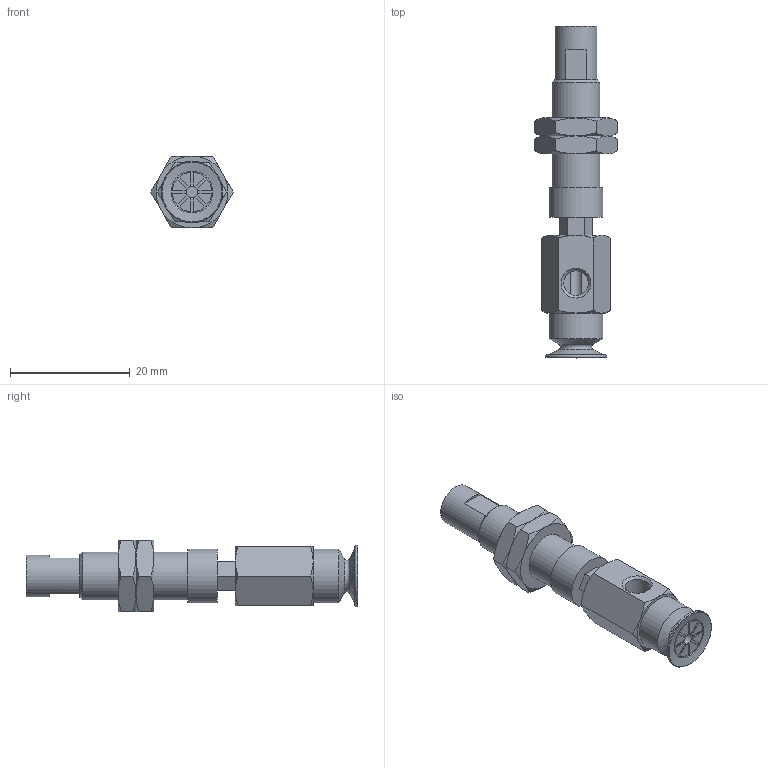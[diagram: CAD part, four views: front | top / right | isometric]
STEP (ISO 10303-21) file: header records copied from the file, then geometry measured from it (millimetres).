
FILE_DESCRIPTION(('STEP AP203'),'1');
FILE_NAME('.stp','2025-03-13T02:54:31',(' '),(' '),'Spatial InterOp 3D',' ',' ');
FILE_SCHEMA(('CONFIG_CONTROL_DESIGN'));
Length unit declared in the file: millimetre
Products named in the file (6): BNABPAYH-10B-3-※; NAPATH-10A-3--M; NAPATH-10A-3--F; Nut-10A-S; CONNECTOR-10A-3-PA; BPAG-10B-※
Assembly tree (6 placements, depth 2):
  BNABPAYH-10B-3-※
    NAPATH-10A-3--M
    NAPATH-10A-3--F
    Nut-10A-S  x2
    CONNECTOR-10A-3-PA
    BPAG-10B-※
Bounding box: 13.86 x 55.5 x 12 mm (x, y, z)
Volume: 3407 mm3; surface area: 4110.8 mm2
Topology: 6 solids, 6 shells, 173 faces, 400 edges, 248 vertices
Faces by surface type: plane 87, cone 51, cylinder 24, torus 11
Full cylindrical faces by diameter (mm): 2 x2, 4 x2, 4.134 x2, 5 x1, 6 x2, 7 x2, 7.188 x2, 8 x1, 9 x2
Entity records: 4562 total; most frequent: CARTESIAN_POINT 1023, DIRECTION 678, ORIENTED_EDGE 612, EDGE_CURVE 306, AXIS2_PLACEMENT_3D 269, VERTEX_POINT 212, EDGE_LOOP 206, FACE_OUTER_BOUND 176
